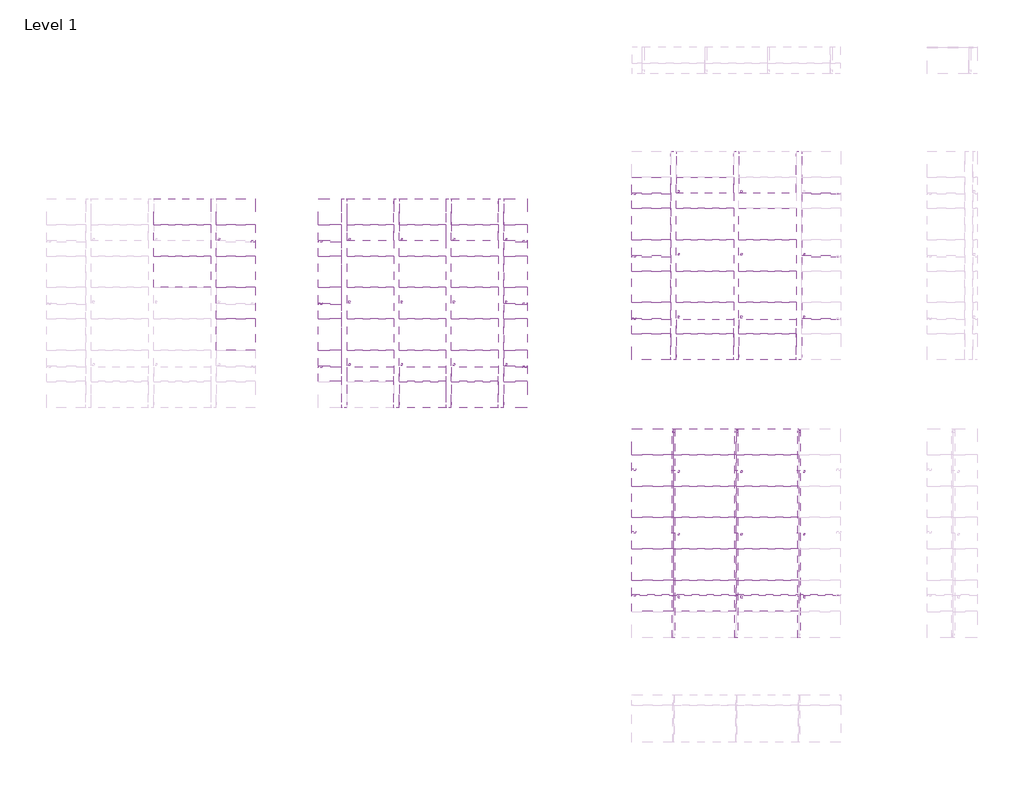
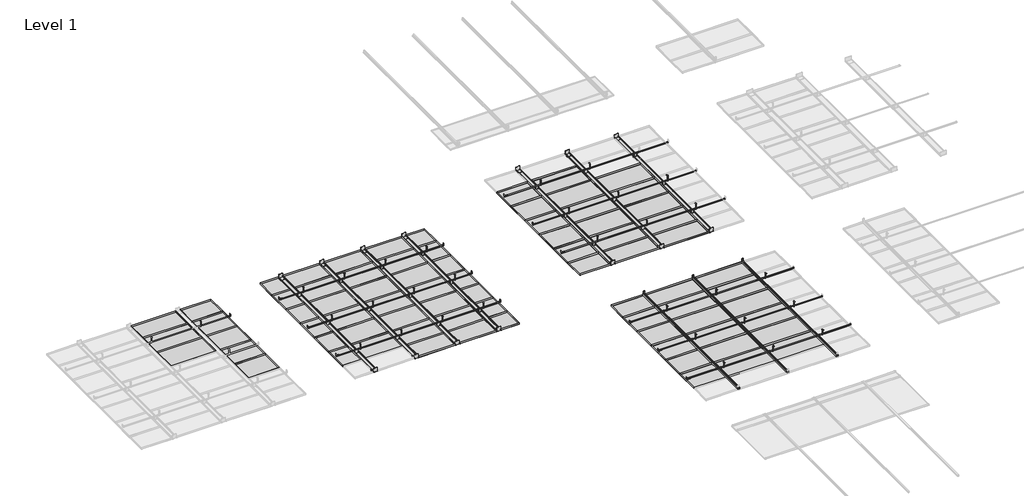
# One storey, part 6 of 32: 137 proxies.
"""IFC4 building model written with IfcOpenShell, lengths in millimetres."""

from ifc_helpers import new_model, si_unit, origin, place, context, project, spatial, transform, mapped, element, save
from components import generic_models_68f9382c, generic_models_d3878264, generic_models_7700acbb, generic_models_8e456d97, generic_models_8e043421, generic_models_0902a4dc, generic_models_473d700c, generic_models_fc0800be, generic_models_c447fded, generic_models_d1081ca2, generic_models_65a62dc2, generic_models_7d67d448, generic_models_b38b7da3, generic_models_b8162554, generic_models_87ce61aa, generic_models_99a2cd64, generic_models_e242ee94, generic_models_6c3d11f3, generic_models_ce491251, generic_models_44111244, generic_models_28f6a95c, generic_models_9e18e937, generic_models_9ccf16c1, generic_models_da7f173b, generic_models_743fb40c

model = new_model("IFC4")

# Units and contexts
model_context = context("Model", 3, world=origin())
ifc_project = project(units=[si_unit("LENGTHUNIT", "METRE", prefix="MILLI")], contexts=[model_context])

# Site, building, storey
site = spatial("IfcSite", under=ifc_project)
building = spatial("IfcBuilding", under=site)
storey = spatial("IfcBuildingStorey", under=building, Name="Level 1", Elevation=0.0)

# Proxies
placement = place(None, origin())
generic_models_shape = generic_models_68f9382c(model_context)
element("IfcBuildingElementProxy", 1, Name="durlum_S5-100_RHOMBOS_panel : durlum_S5-100_RHOMBOS_panel", ObjectType="durlum_S5-100_RHOMBOS_panel : durlum_S5-100_RHOMBOS_panel", at=placement, inside=storey, context=model_context, shape_type="MappedRepresentation", body=[
    mapped(generic_models_shape, transform((-27995.2269838, -1761.3211481, 3800.0), x_axis=(1.0, 0.0, 0.0), y_axis=(0.0, 1.0, 0.0), z_axis=(0.0, 0.0, 1.0))),
])
element("IfcBuildingElementProxy", 2, Name="durlum_S5-100_RHOMBOS_panel : durlum_S5-100_RHOMBOS_panel", ObjectType="durlum_S5-100_RHOMBOS_panel : durlum_S5-100_RHOMBOS_panel", at=placement, inside=storey, context=model_context, shape_type="MappedRepresentation", body=[
    mapped(generic_models_shape, transform((-27995.2269838, -1161.3211481, 3800.0), x_axis=(1.0, 0.0, 0.0), y_axis=(0.0, 1.0, 0.0), z_axis=(0.0, 0.0, 1.0))),
])
generic_models_2_shape = generic_models_d3878264(model_context)
element("IfcBuildingElementProxy", 3, Name="durlum_S5-100_RHOMBOS_panel : durlum_S5-100_RHOMBOS_panel_wall_length_cut", ObjectType="durlum_S5-100_RHOMBOS_panel : durlum_S5-100_RHOMBOS_panel_wall_length_cut", at=placement, inside=storey, context=model_context, shape_type="MappedRepresentation", body=[
    mapped(generic_models_2_shape, transform((-26968.7269838, -2961.3211481, 3800.0), x_axis=(1.0, 0.0, 0.0), y_axis=(0.0, 1.0, 0.0), z_axis=(0.0, 0.0, 1.0))),
])
element("IfcBuildingElementProxy", 4, Name="durlum_S5-100_RHOMBOS_panel : durlum_S5-100_RHOMBOS_panel_wall_length_cut", ObjectType="durlum_S5-100_RHOMBOS_panel : durlum_S5-100_RHOMBOS_panel_wall_length_cut", at=placement, inside=storey, context=model_context, shape_type="MappedRepresentation", body=[
    mapped(generic_models_2_shape, transform((-26968.7269838, -2361.3211481, 3800.0), x_axis=(1.0, 0.0, 0.0), y_axis=(0.0, 1.0, 0.0), z_axis=(0.0, 0.0, 1.0))),
])
element("IfcBuildingElementProxy", 5, Name="durlum_S5-100_RHOMBOS_panel : durlum_S5-100_RHOMBOS_panel_wall_length_cut", ObjectType="durlum_S5-100_RHOMBOS_panel : durlum_S5-100_RHOMBOS_panel_wall_length_cut", at=placement, inside=storey, context=model_context, shape_type="MappedRepresentation", body=[
    mapped(generic_models_2_shape, transform((-26968.7269838, -1761.3211481, 3800.0), x_axis=(1.0, 0.0, 0.0), y_axis=(0.0, 1.0, 0.0), z_axis=(0.0, 0.0, 1.0))),
])
element("IfcBuildingElementProxy", 6, Name="durlum_S5-100_RHOMBOS_panel : durlum_S5-100_RHOMBOS_panel_wall_length_cut", ObjectType="durlum_S5-100_RHOMBOS_panel : durlum_S5-100_RHOMBOS_panel_wall_length_cut", at=placement, inside=storey, context=model_context, shape_type="MappedRepresentation", body=[
    mapped(generic_models_2_shape, transform((-26968.7269838, -1161.3211481, 3800.0), x_axis=(1.0, 0.0, 0.0), y_axis=(0.0, 1.0, 0.0), z_axis=(0.0, 0.0, 1.0))),
])
generic_models_3_shape = generic_models_7700acbb(model_context)
element("IfcBuildingElementProxy", 7, Name="durlum_S5-100_RHOMBOS_panel : durlum_S5-100_RHOMBOS_panel_wall_width_cut", ObjectType="durlum_S5-100_RHOMBOS_panel : durlum_S5-100_RHOMBOS_panel_wall_width_cut", at=placement, inside=storey, context=model_context, shape_type="MappedRepresentation", body=[
    mapped(generic_models_3_shape, transform((-27995.2269838, -611.3211481, 3800.0), x_axis=(1.0, 0.0, 0.0), y_axis=(0.0, 1.0, 0.0), z_axis=(0.0, 0.0, 1.0))),
])
generic_models_4_shape = generic_models_8e456d97(model_context)
element("IfcBuildingElementProxy", 8, Name="durlum_S5-100_RHOMBOS_panel : durlum_S5-100_RHOMBOS_panel_wall_corner", ObjectType="durlum_S5-100_RHOMBOS_panel : durlum_S5-100_RHOMBOS_panel_wall_corner", at=placement, inside=storey, context=model_context, shape_type="MappedRepresentation", body=[
    mapped(generic_models_4_shape, transform((-26968.7269838, -611.3211481, 3800.0), x_axis=(1.0, 0.0, 0.0), y_axis=(0.0, 1.0, 0.0), z_axis=(0.0, 0.0, 1.0))),
])
generic_models_5_shape = generic_models_8e043421(model_context)
element("IfcBuildingElementProxy", 9, Name="durlum_S5-100_panel : durlum_S5-100_panel_wall_length_cut", ObjectType="durlum_S5-100_panel : durlum_S5-100_panel_wall_length_cut", at=placement, inside=storey, context=model_context, shape_type="MappedRepresentation", body=[
    mapped(generic_models_5_shape, transform((-19015.4236977, -2048.2303881, 3800.0), x_axis=(1.0, 0.0, 0.0), y_axis=(0.0, 1.0, 0.0), z_axis=(0.0, 0.0, 1.0))),
])
element("IfcBuildingElementProxy", 10, Name="durlum_S5-100_panel : durlum_S5-100_panel_wall_length_cut", ObjectType="durlum_S5-100_panel : durlum_S5-100_panel_wall_length_cut", at=placement, inside=storey, context=model_context, shape_type="MappedRepresentation", body=[
    mapped(generic_models_5_shape, transform((-19015.4236977, -1448.2303881, 3800.0), x_axis=(1.0, 0.0, 0.0), y_axis=(0.0, 1.0, 0.0), z_axis=(0.0, 0.0, 1.0))),
])
element("IfcBuildingElementProxy", 11, Name="durlum_S5-100_panel : durlum_S5-100_panel_wall_length_cut", ObjectType="durlum_S5-100_panel : durlum_S5-100_panel_wall_length_cut", at=placement, inside=storey, context=model_context, shape_type="MappedRepresentation", body=[
    mapped(generic_models_5_shape, transform((-19015.4236977, -848.2303881, 3800.0), x_axis=(1.0, 0.0, 0.0), y_axis=(0.0, 1.0, 0.0), z_axis=(0.0, 0.0, 1.0))),
])
element("IfcBuildingElementProxy", 12, Name="durlum_S5-100_panel : durlum_S5-100_panel_wall_length_cut", ObjectType="durlum_S5-100_panel : durlum_S5-100_panel_wall_length_cut", at=placement, inside=storey, context=model_context, shape_type="MappedRepresentation", body=[
    mapped(generic_models_5_shape, transform((-19015.4236977, -2648.2303881, 3800.0), x_axis=(1.0, 0.0, 0.0), y_axis=(0.0, 1.0, 0.0), z_axis=(0.0, 0.0, 1.0))),
])
element("IfcBuildingElementProxy", 13, Name="durlum_S5-100_panel : durlum_S5-100_panel_wall_length_cut", ObjectType="durlum_S5-100_panel : durlum_S5-100_panel_wall_length_cut", at=placement, inside=storey, context=model_context, shape_type="MappedRepresentation", body=[
    mapped(generic_models_5_shape, transform((-19015.4236977, -248.2303881, 3800.0), x_axis=(1.0, 0.0, 0.0), y_axis=(0.0, 1.0, 0.0), z_axis=(0.0, 0.0, 1.0))),
])
generic_models_6_shape = generic_models_0902a4dc(model_context)
element("IfcBuildingElementProxy", 14, Name="durlum_S5-100_panel : durlum_S5-100_panel_wall_corner", ObjectType="durlum_S5-100_panel : durlum_S5-100_panel_wall_corner", at=placement, inside=storey, context=model_context, shape_type="MappedRepresentation", body=[
    mapped(generic_models_6_shape, transform((-19015.4236977, -3198.2303881, 3800.0), x_axis=(1.0, 0.0, 0.0), y_axis=(0.0, 1.0, 0.0), z_axis=(0.0, 0.0, 1.0))),
])
generic_models_7_shape = generic_models_473d700c(model_context)
element("IfcBuildingElementProxy", 15, Name="durlum_S5-100_panel : durlum_S5-100_panel", ObjectType="durlum_S5-100_panel : durlum_S5-100_panel", at=placement, inside=storey, context=model_context, shape_type="MappedRepresentation", body=[
    mapped(generic_models_7_shape, transform((-17990.1736977, -1448.2303881, 3800.0), x_axis=(1.0, 0.0, 0.0), y_axis=(0.0, 1.0, 0.0), z_axis=(0.0, 0.0, 1.0))),
])
element("IfcBuildingElementProxy", 16, Name="durlum_S5-100_panel : durlum_S5-100_panel", ObjectType="durlum_S5-100_panel : durlum_S5-100_panel", at=placement, inside=storey, context=model_context, shape_type="MappedRepresentation", body=[
    mapped(generic_models_7_shape, transform((-16790.1736977, -1448.2303881, 3800.0), x_axis=(1.0, 0.0, 0.0), y_axis=(0.0, 1.0, 0.0), z_axis=(0.0, 0.0, 1.0))),
])
element("IfcBuildingElementProxy", 17, Name="durlum_S5-100_panel : durlum_S5-100_panel", ObjectType="durlum_S5-100_panel : durlum_S5-100_panel", at=placement, inside=storey, context=model_context, shape_type="MappedRepresentation", body=[
    mapped(generic_models_7_shape, transform((-17990.1736977, -848.2303881, 3800.0), x_axis=(1.0, 0.0, 0.0), y_axis=(0.0, 1.0, 0.0), z_axis=(0.0, 0.0, 1.0))),
])
element("IfcBuildingElementProxy", 18, Name="durlum_S5-100_panel : durlum_S5-100_panel", ObjectType="durlum_S5-100_panel : durlum_S5-100_panel", at=placement, inside=storey, context=model_context, shape_type="MappedRepresentation", body=[
    mapped(generic_models_7_shape, transform((-16790.1736977, -848.2303881, 3800.0), x_axis=(1.0, 0.0, 0.0), y_axis=(0.0, 1.0, 0.0), z_axis=(0.0, 0.0, 1.0))),
])
element("IfcBuildingElementProxy", 19, Name="durlum_S5-100_panel : durlum_S5-100_panel", ObjectType="durlum_S5-100_panel : durlum_S5-100_panel", at=placement, inside=storey, context=model_context, shape_type="MappedRepresentation", body=[
    mapped(generic_models_7_shape, transform((-17990.1736977, -2648.2303881, 3800.0), x_axis=(1.0, 0.0, 0.0), y_axis=(0.0, 1.0, 0.0), z_axis=(0.0, 0.0, 1.0))),
])
element("IfcBuildingElementProxy", 20, Name="durlum_S5-100_panel : durlum_S5-100_panel", ObjectType="durlum_S5-100_panel : durlum_S5-100_panel", at=placement, inside=storey, context=model_context, shape_type="MappedRepresentation", body=[
    mapped(generic_models_7_shape, transform((-16790.1736977, -2648.2303881, 3800.0), x_axis=(1.0, 0.0, 0.0), y_axis=(0.0, 1.0, 0.0), z_axis=(0.0, 0.0, 1.0))),
])
element("IfcBuildingElementProxy", 21, Name="durlum_S5-100_panel : durlum_S5-100_panel", ObjectType="durlum_S5-100_panel : durlum_S5-100_panel", at=placement, inside=storey, context=model_context, shape_type="MappedRepresentation", body=[
    mapped(generic_models_7_shape, transform((-17990.1736977, -248.2303881, 3800.0), x_axis=(1.0, 0.0, 0.0), y_axis=(0.0, 1.0, 0.0), z_axis=(0.0, 0.0, 1.0))),
])
element("IfcBuildingElementProxy", 22, Name="durlum_S5-100_panel : durlum_S5-100_panel", ObjectType="durlum_S5-100_panel : durlum_S5-100_panel", at=placement, inside=storey, context=model_context, shape_type="MappedRepresentation", body=[
    mapped(generic_models_7_shape, transform((-17990.1736977, -2048.2303881, 3800.0), x_axis=(1.0, 0.0, 0.0), y_axis=(0.0, 1.0, 0.0), z_axis=(0.0, 0.0, 1.0))),
])
element("IfcBuildingElementProxy", 23, Name="durlum_S5-100_panel : durlum_S5-100_panel", ObjectType="durlum_S5-100_panel : durlum_S5-100_panel", at=placement, inside=storey, context=model_context, shape_type="MappedRepresentation", body=[
    mapped(generic_models_7_shape, transform((-16790.1736977, -2048.2303881, 3800.0), x_axis=(1.0, 0.0, 0.0), y_axis=(0.0, 1.0, 0.0), z_axis=(0.0, 0.0, 1.0))),
])
generic_models_8_shape = generic_models_fc0800be(model_context)
element("IfcBuildingElementProxy", 24, Name="durlum_S5-100_panel : durlum_S5-100_panel_wall_width_cut", ObjectType="durlum_S5-100_panel : durlum_S5-100_panel_wall_width_cut", at=placement, inside=storey, context=model_context, shape_type="MappedRepresentation", body=[
    mapped(generic_models_8_shape, transform((-16790.1736977, -3198.2303881, 3800.0), x_axis=(1.0, 0.0, 0.0), y_axis=(0.0, 1.0, 0.0), z_axis=(0.0, 0.0, 1.0))),
])
element("IfcBuildingElementProxy", 25, Name="durlum_S5-100_panel : durlum_S5-100_panel_wall_width_cut", ObjectType="durlum_S5-100_panel : durlum_S5-100_panel_wall_width_cut", at=placement, inside=storey, context=model_context, shape_type="MappedRepresentation", body=[
    mapped(generic_models_8_shape, transform((-17990.1736977, -3198.2303881, 3800.0), x_axis=(1.0, 0.0, 0.0), y_axis=(0.0, 1.0, 0.0), z_axis=(0.0, 0.0, 1.0))),
])
generic_models_9_shape = generic_models_c447fded(model_context)
element("IfcBuildingElementProxy", 26, Name="durlum_S7_panel : durlum_S7_panel", ObjectType="durlum_S7_panel : durlum_S7_panel", at=placement, inside=storey, context=model_context, shape_type="MappedRepresentation", body=[
    mapped(generic_models_9_shape, transform((-16790.1736977, -7364.8137232, 3800.0), x_axis=(1.0, 0.0, 0.0), y_axis=(0.0, 1.0, 0.0), z_axis=(0.0, 0.0, 1.0))),
])
element("IfcBuildingElementProxy", 27, Name="durlum_S7_panel : durlum_S7_panel", ObjectType="durlum_S7_panel : durlum_S7_panel", at=placement, inside=storey, context=model_context, shape_type="MappedRepresentation", body=[
    mapped(generic_models_9_shape, transform((-17990.1736977, -6764.8137232, 3800.0), x_axis=(1.0, 0.0, 0.0), y_axis=(0.0, 1.0, 0.0), z_axis=(0.0, 0.0, 1.0))),
])
element("IfcBuildingElementProxy", 28, Name="durlum_S7_panel : durlum_S7_panel", ObjectType="durlum_S7_panel : durlum_S7_panel", at=placement, inside=storey, context=model_context, shape_type="MappedRepresentation", body=[
    mapped(generic_models_9_shape, transform((-16790.1736977, -6764.8137232, 3800.0), x_axis=(1.0, 0.0, 0.0), y_axis=(0.0, 1.0, 0.0), z_axis=(0.0, 0.0, 1.0))),
])
element("IfcBuildingElementProxy", 29, Name="durlum_S7_panel : durlum_S7_panel", ObjectType="durlum_S7_panel : durlum_S7_panel", at=placement, inside=storey, context=model_context, shape_type="MappedRepresentation", body=[
    mapped(generic_models_9_shape, transform((-17990.1736977, -6164.8137232, 3800.0), x_axis=(1.0, 0.0, 0.0), y_axis=(0.0, 1.0, 0.0), z_axis=(0.0, 0.0, 1.0))),
])
element("IfcBuildingElementProxy", 30, Name="durlum_S7_panel : durlum_S7_panel", ObjectType="durlum_S7_panel : durlum_S7_panel", at=placement, inside=storey, context=model_context, shape_type="MappedRepresentation", body=[
    mapped(generic_models_9_shape, transform((-16790.1736977, -6164.8137232, 3800.0), x_axis=(1.0, 0.0, 0.0), y_axis=(0.0, 1.0, 0.0), z_axis=(0.0, 0.0, 1.0))),
])
element("IfcBuildingElementProxy", 31, Name="durlum_S7_panel : durlum_S7_panel", ObjectType="durlum_S7_panel : durlum_S7_panel", at=placement, inside=storey, context=model_context, shape_type="MappedRepresentation", body=[
    mapped(generic_models_9_shape, transform((-17990.1736977, -7964.8137232, 3800.0), x_axis=(1.0, 0.0, 0.0), y_axis=(0.0, 1.0, 0.0), z_axis=(0.0, 0.0, 1.0))),
])
element("IfcBuildingElementProxy", 32, Name="durlum_S7_panel : durlum_S7_panel", ObjectType="durlum_S7_panel : durlum_S7_panel", at=placement, inside=storey, context=model_context, shape_type="MappedRepresentation", body=[
    mapped(generic_models_9_shape, transform((-16790.1736977, -7964.8137232, 3800.0), x_axis=(1.0, 0.0, 0.0), y_axis=(0.0, 1.0, 0.0), z_axis=(0.0, 0.0, 1.0))),
])
element("IfcBuildingElementProxy", 33, Name="durlum_S7_panel : durlum_S7_panel", ObjectType="durlum_S7_panel : durlum_S7_panel", at=placement, inside=storey, context=model_context, shape_type="MappedRepresentation", body=[
    mapped(generic_models_9_shape, transform((-17990.1736977, -5564.8137232, 3800.0), x_axis=(1.0, 0.0, 0.0), y_axis=(0.0, 1.0, 0.0), z_axis=(0.0, 0.0, 1.0))),
])
element("IfcBuildingElementProxy", 34, Name="durlum_S7_panel : durlum_S7_panel", ObjectType="durlum_S7_panel : durlum_S7_panel", at=placement, inside=storey, context=model_context, shape_type="MappedRepresentation", body=[
    mapped(generic_models_9_shape, transform((-16790.1736977, -5564.8137232, 3800.0), x_axis=(1.0, 0.0, 0.0), y_axis=(0.0, 1.0, 0.0), z_axis=(0.0, 0.0, 1.0))),
])
element("IfcBuildingElementProxy", 35, Name="durlum_S7_panel : durlum_S7_panel", ObjectType="durlum_S7_panel : durlum_S7_panel", at=placement, inside=storey, context=model_context, shape_type="MappedRepresentation", body=[
    mapped(generic_models_9_shape, transform((-17990.1736977, -7364.8137232, 3800.0), x_axis=(1.0, 0.0, 0.0), y_axis=(0.0, 1.0, 0.0), z_axis=(0.0, 0.0, 1.0))),
])
generic_models_10_shape = generic_models_d1081ca2(model_context)
element("IfcBuildingElementProxy", 36, Name="durlum_S7_panel : durlum_S7_panel_wall_width_cut", ObjectType="durlum_S7_panel : durlum_S7_panel_wall_width_cut", at=placement, inside=storey, context=model_context, shape_type="MappedRepresentation", body=[
    mapped(generic_models_10_shape, transform((-16790.1736977, -5014.8137232, 3800.0), x_axis=(1.0, 0.0, 0.0), y_axis=(0.0, 1.0, 0.0), z_axis=(0.0, 0.0, 1.0))),
])
element("IfcBuildingElementProxy", 37, Name="durlum_S7_panel : durlum_S7_panel_wall_width_cut", ObjectType="durlum_S7_panel : durlum_S7_panel_wall_width_cut", at=placement, inside=storey, context=model_context, shape_type="MappedRepresentation", body=[
    mapped(generic_models_10_shape, transform((-17990.1736977, -5014.8137232, 3800.0), x_axis=(1.0, 0.0, 0.0), y_axis=(0.0, 1.0, 0.0), z_axis=(0.0, 0.0, 1.0))),
])
generic_models_11_shape = generic_models_65a62dc2(model_context)
element("IfcBuildingElementProxy", 38, Name="durlum_S7_panel : durlum_S7_panel_wall_length_cut", ObjectType="durlum_S7_panel : durlum_S7_panel_wall_length_cut", at=placement, inside=storey, context=model_context, shape_type="MappedRepresentation", body=[
    mapped(generic_models_11_shape, transform((-18990.1736977, -7364.8137232, 3800.0), x_axis=(1.0, 0.0, 0.0), y_axis=(0.0, 1.0, 0.0), z_axis=(0.0, 0.0, 1.0))),
])
element("IfcBuildingElementProxy", 39, Name="durlum_S7_panel : durlum_S7_panel_wall_length_cut", ObjectType="durlum_S7_panel : durlum_S7_panel_wall_length_cut", at=placement, inside=storey, context=model_context, shape_type="MappedRepresentation", body=[
    mapped(generic_models_11_shape, transform((-18990.1736977, -6764.8137232, 3800.0), x_axis=(1.0, 0.0, 0.0), y_axis=(0.0, 1.0, 0.0), z_axis=(0.0, 0.0, 1.0))),
])
element("IfcBuildingElementProxy", 40, Name="durlum_S7_panel : durlum_S7_panel_wall_length_cut", ObjectType="durlum_S7_panel : durlum_S7_panel_wall_length_cut", at=placement, inside=storey, context=model_context, shape_type="MappedRepresentation", body=[
    mapped(generic_models_11_shape, transform((-18990.1736977, -6164.8137232, 3800.0), x_axis=(1.0, 0.0, 0.0), y_axis=(0.0, 1.0, 0.0), z_axis=(0.0, 0.0, 1.0))),
])
element("IfcBuildingElementProxy", 41, Name="durlum_S7_panel : durlum_S7_panel_wall_length_cut", ObjectType="durlum_S7_panel : durlum_S7_panel_wall_length_cut", at=placement, inside=storey, context=model_context, shape_type="MappedRepresentation", body=[
    mapped(generic_models_11_shape, transform((-18990.1736977, -7964.8137232, 3800.0), x_axis=(1.0, 0.0, 0.0), y_axis=(0.0, 1.0, 0.0), z_axis=(0.0, 0.0, 1.0))),
])
element("IfcBuildingElementProxy", 42, Name="durlum_S7_panel : durlum_S7_panel_wall_length_cut", ObjectType="durlum_S7_panel : durlum_S7_panel_wall_length_cut", at=placement, inside=storey, context=model_context, shape_type="MappedRepresentation", body=[
    mapped(generic_models_11_shape, transform((-18990.1736977, -5564.8137232, 3800.0), x_axis=(1.0, 0.0, 0.0), y_axis=(0.0, 1.0, 0.0), z_axis=(0.0, 0.0, 1.0))),
])
generic_models_12_shape = generic_models_7d67d448(model_context)
element("IfcBuildingElementProxy", 43, Name="durlum_S7_panel : durlum_S7_panel_wall_corner", ObjectType="durlum_S7_panel : durlum_S7_panel_wall_corner", at=placement, inside=storey, context=model_context, shape_type="MappedRepresentation", body=[
    mapped(generic_models_12_shape, transform((-18990.1736977, -5014.8137232, 3800.0), x_axis=(1.0, 0.0, 0.0), y_axis=(0.0, 1.0, 0.0), z_axis=(0.0, 0.0, 1.0))),
])
generic_models_13_shape = generic_models_b38b7da3(model_context)
element("IfcBuildingElementProxy", 44, Name="durlum_S5.7KS-BR_panel : durlum_S5.7KS-BR_panel", ObjectType="durlum_S5.7KS-BR_panel : durlum_S5.7KS-BR_panel", at=placement, inside=storey, context=model_context, shape_type="MappedRepresentation", body=[
    mapped(generic_models_13_shape, transform((-24395.2269838, -2961.3211481, 3800.0), x_axis=(1.0, 0.0, 0.0), y_axis=(0.0, 1.0, 0.0), z_axis=(0.0, 0.0, 1.0))),
])
element("IfcBuildingElementProxy", 45, Name="durlum_S5.7KS-BR_panel : durlum_S5.7KS-BR_panel", ObjectType="durlum_S5.7KS-BR_panel : durlum_S5.7KS-BR_panel", at=placement, inside=storey, context=model_context, shape_type="MappedRepresentation", body=[
    mapped(generic_models_13_shape, transform((-22395.2269838, -2961.3211481, 3800.0), x_axis=(1.0, 0.0, 0.0), y_axis=(0.0, 1.0, 0.0), z_axis=(0.0, 0.0, 1.0))),
])
element("IfcBuildingElementProxy", 46, Name="durlum_S5.7KS-BR_panel : durlum_S5.7KS-BR_panel", ObjectType="durlum_S5.7KS-BR_panel : durlum_S5.7KS-BR_panel", at=placement, inside=storey, context=model_context, shape_type="MappedRepresentation", body=[
    mapped(generic_models_13_shape, transform((-24395.2269838, -2361.3211481, 3800.0), x_axis=(1.0, 0.0, 0.0), y_axis=(0.0, 1.0, 0.0), z_axis=(0.0, 0.0, 1.0))),
])
element("IfcBuildingElementProxy", 47, Name="durlum_S5.7KS-BR_panel : durlum_S5.7KS-BR_panel", ObjectType="durlum_S5.7KS-BR_panel : durlum_S5.7KS-BR_panel", at=placement, inside=storey, context=model_context, shape_type="MappedRepresentation", body=[
    mapped(generic_models_13_shape, transform((-22395.2269838, -2361.3211481, 3800.0), x_axis=(1.0, 0.0, 0.0), y_axis=(0.0, 1.0, 0.0), z_axis=(0.0, 0.0, 1.0))),
])
element("IfcBuildingElementProxy", 48, Name="durlum_S5.7KS-BR_panel : durlum_S5.7KS-BR_panel", ObjectType="durlum_S5.7KS-BR_panel : durlum_S5.7KS-BR_panel", at=placement, inside=storey, context=model_context, shape_type="MappedRepresentation", body=[
    mapped(generic_models_13_shape, transform((-24395.2269838, -1761.3211481, 3800.0), x_axis=(1.0, 0.0, 0.0), y_axis=(0.0, 1.0, 0.0), z_axis=(0.0, 0.0, 1.0))),
])
element("IfcBuildingElementProxy", 49, Name="durlum_S5.7KS-BR_panel : durlum_S5.7KS-BR_panel", ObjectType="durlum_S5.7KS-BR_panel : durlum_S5.7KS-BR_panel", at=placement, inside=storey, context=model_context, shape_type="MappedRepresentation", body=[
    mapped(generic_models_13_shape, transform((-22395.2269838, -1761.3211481, 3800.0), x_axis=(1.0, 0.0, 0.0), y_axis=(0.0, 1.0, 0.0), z_axis=(0.0, 0.0, 1.0))),
])
element("IfcBuildingElementProxy", 50, Name="durlum_S5.7KS-BR_panel : durlum_S5.7KS-BR_panel", ObjectType="durlum_S5.7KS-BR_panel : durlum_S5.7KS-BR_panel", at=placement, inside=storey, context=model_context, shape_type="MappedRepresentation", body=[
    mapped(generic_models_13_shape, transform((-24395.2269838, -3561.3211481, 3800.0), x_axis=(1.0, 0.0, 0.0), y_axis=(0.0, 1.0, 0.0), z_axis=(0.0, 0.0, 1.0))),
])
element("IfcBuildingElementProxy", 51, Name="durlum_S5.7KS-BR_panel : durlum_S5.7KS-BR_panel", ObjectType="durlum_S5.7KS-BR_panel : durlum_S5.7KS-BR_panel", at=placement, inside=storey, context=model_context, shape_type="MappedRepresentation", body=[
    mapped(generic_models_13_shape, transform((-22395.2269838, -3561.3211481, 3800.0), x_axis=(1.0, 0.0, 0.0), y_axis=(0.0, 1.0, 0.0), z_axis=(0.0, 0.0, 1.0))),
])
element("IfcBuildingElementProxy", 52, Name="durlum_S5.7KS-BR_panel : durlum_S5.7KS-BR_panel", ObjectType="durlum_S5.7KS-BR_panel : durlum_S5.7KS-BR_panel", at=placement, inside=storey, context=model_context, shape_type="MappedRepresentation", body=[
    mapped(generic_models_13_shape, transform((-24395.2269838, -1161.3211481, 3800.0), x_axis=(1.0, 0.0, 0.0), y_axis=(0.0, 1.0, 0.0), z_axis=(0.0, 0.0, 1.0))),
])
element("IfcBuildingElementProxy", 53, Name="durlum_S5.7KS-BR_panel : durlum_S5.7KS-BR_panel", ObjectType="durlum_S5.7KS-BR_panel : durlum_S5.7KS-BR_panel", at=placement, inside=storey, context=model_context, shape_type="MappedRepresentation", body=[
    mapped(generic_models_13_shape, transform((-22395.2269838, -1161.3211481, 3800.0), x_axis=(1.0, 0.0, 0.0), y_axis=(0.0, 1.0, 0.0), z_axis=(0.0, 0.0, 1.0))),
])
element("IfcBuildingElementProxy", 54, Name="durlum_S5.7KS-BR_panel : durlum_S5.7KS-BR_panel", ObjectType="durlum_S5.7KS-BR_panel : durlum_S5.7KS-BR_panel", at=placement, inside=storey, context=model_context, shape_type="MappedRepresentation", body=[
    mapped(generic_models_13_shape, transform((-23395.2269838, -2961.3211481, 3800.0), x_axis=(1.0, 0.0, 0.0), y_axis=(0.0, 1.0, 0.0), z_axis=(0.0, 0.0, 1.0))),
])
element("IfcBuildingElementProxy", 55, Name="durlum_S5.7KS-BR_panel : durlum_S5.7KS-BR_panel", ObjectType="durlum_S5.7KS-BR_panel : durlum_S5.7KS-BR_panel", at=placement, inside=storey, context=model_context, shape_type="MappedRepresentation", body=[
    mapped(generic_models_13_shape, transform((-23395.2269838, -2361.3211481, 3800.0), x_axis=(1.0, 0.0, 0.0), y_axis=(0.0, 1.0, 0.0), z_axis=(0.0, 0.0, 1.0))),
])
element("IfcBuildingElementProxy", 56, Name="durlum_S5.7KS-BR_panel : durlum_S5.7KS-BR_panel", ObjectType="durlum_S5.7KS-BR_panel : durlum_S5.7KS-BR_panel", at=placement, inside=storey, context=model_context, shape_type="MappedRepresentation", body=[
    mapped(generic_models_13_shape, transform((-23395.2269838, -1761.3211481, 3800.0), x_axis=(1.0, 0.0, 0.0), y_axis=(0.0, 1.0, 0.0), z_axis=(0.0, 0.0, 1.0))),
])
element("IfcBuildingElementProxy", 57, Name="durlum_S5.7KS-BR_panel : durlum_S5.7KS-BR_panel", ObjectType="durlum_S5.7KS-BR_panel : durlum_S5.7KS-BR_panel", at=placement, inside=storey, context=model_context, shape_type="MappedRepresentation", body=[
    mapped(generic_models_13_shape, transform((-23395.2269838, -3561.3211481, 3800.0), x_axis=(1.0, 0.0, 0.0), y_axis=(0.0, 1.0, 0.0), z_axis=(0.0, 0.0, 1.0))),
])
element("IfcBuildingElementProxy", 58, Name="durlum_S5.7KS-BR_panel : durlum_S5.7KS-BR_panel", ObjectType="durlum_S5.7KS-BR_panel : durlum_S5.7KS-BR_panel", at=placement, inside=storey, context=model_context, shape_type="MappedRepresentation", body=[
    mapped(generic_models_13_shape, transform((-23395.2269838, -1161.3211481, 3800.0), x_axis=(1.0, 0.0, 0.0), y_axis=(0.0, 1.0, 0.0), z_axis=(0.0, 0.0, 1.0))),
])
generic_models_14_shape = generic_models_b8162554(model_context)
element("IfcBuildingElementProxy", 59, Name="durlum_S5.7KS-BR_panel : durlum_S5.7KS-BR_panel_wall_width_cut", ObjectType="durlum_S5.7KS-BR_panel : durlum_S5.7KS-BR_panel_wall_width_cut", at=placement, inside=storey, context=model_context, shape_type="MappedRepresentation", body=[
    mapped(generic_models_14_shape, transform((-22395.2269838, -4111.3211481, 3800.0), x_axis=(1.0, 0.0, 0.0), y_axis=(0.0, 1.0, 0.0), z_axis=(0.0, 0.0, 1.0))),
])
element("IfcBuildingElementProxy", 60, Name="durlum_S5.7KS-BR_panel : durlum_S5.7KS-BR_panel_wall_width_cut", ObjectType="durlum_S5.7KS-BR_panel : durlum_S5.7KS-BR_panel_wall_width_cut", at=placement, inside=storey, context=model_context, shape_type="MappedRepresentation", body=[
    mapped(generic_models_14_shape, transform((-22395.2269838, -611.3211481, 3800.0), x_axis=(1.0, 0.0, 0.0), y_axis=(0.0, 1.0, 0.0), z_axis=(0.0, 0.0, 1.0))),
])
element("IfcBuildingElementProxy", 61, Name="durlum_S5.7KS-BR_panel : durlum_S5.7KS-BR_panel_wall_width_cut", ObjectType="durlum_S5.7KS-BR_panel : durlum_S5.7KS-BR_panel_wall_width_cut", at=placement, inside=storey, context=model_context, shape_type="MappedRepresentation", body=[
    mapped(generic_models_14_shape, transform((-24395.2269838, -611.3211481, 3800.0), x_axis=(1.0, 0.0, 0.0), y_axis=(0.0, 1.0, 0.0), z_axis=(0.0, 0.0, 1.0))),
])
element("IfcBuildingElementProxy", 62, Name="durlum_S5.7KS-BR_panel : durlum_S5.7KS-BR_panel_wall_width_cut", ObjectType="durlum_S5.7KS-BR_panel : durlum_S5.7KS-BR_panel_wall_width_cut", at=placement, inside=storey, context=model_context, shape_type="MappedRepresentation", body=[
    mapped(generic_models_14_shape, transform((-23395.2269838, -4111.3211481, 3800.0), x_axis=(1.0, 0.0, 0.0), y_axis=(0.0, 1.0, 0.0), z_axis=(0.0, 0.0, 1.0))),
])
element("IfcBuildingElementProxy", 63, Name="durlum_S5.7KS-BR_panel : durlum_S5.7KS-BR_panel_wall_width_cut", ObjectType="durlum_S5.7KS-BR_panel : durlum_S5.7KS-BR_panel_wall_width_cut", at=placement, inside=storey, context=model_context, shape_type="MappedRepresentation", body=[
    mapped(generic_models_14_shape, transform((-23395.2269838, -611.3211481, 3800.0), x_axis=(1.0, 0.0, 0.0), y_axis=(0.0, 1.0, 0.0), z_axis=(0.0, 0.0, 1.0))),
])
generic_models_15_shape = generic_models_87ce61aa(model_context)
element("IfcBuildingElementProxy", 64, Name="durlum_S5.7KS-BR_panel : durlum_S5.7KS-BR_panel_wall_length_cut", ObjectType="durlum_S5.7KS-BR_panel : durlum_S5.7KS-BR_panel_wall_length_cut", at=placement, inside=storey, context=model_context, shape_type="MappedRepresentation", body=[
    mapped(generic_models_15_shape, transform((-25171.7269838, -2961.3211481, 3800.0), x_axis=(1.0, 0.0, 0.0), y_axis=(0.0, 1.0, 0.0), z_axis=(0.0, 0.0, 1.0))),
])
element("IfcBuildingElementProxy", 65, Name="durlum_S5.7KS-BR_panel : durlum_S5.7KS-BR_panel_wall_length_cut", ObjectType="durlum_S5.7KS-BR_panel : durlum_S5.7KS-BR_panel_wall_length_cut", at=placement, inside=storey, context=model_context, shape_type="MappedRepresentation", body=[
    mapped(generic_models_15_shape, transform((-21618.7269838, -2961.3211481, 3800.0), x_axis=(1.0, 0.0, 0.0), y_axis=(0.0, 1.0, 0.0), z_axis=(0.0, 0.0, 1.0))),
])
element("IfcBuildingElementProxy", 66, Name="durlum_S5.7KS-BR_panel : durlum_S5.7KS-BR_panel_wall_length_cut", ObjectType="durlum_S5.7KS-BR_panel : durlum_S5.7KS-BR_panel_wall_length_cut", at=placement, inside=storey, context=model_context, shape_type="MappedRepresentation", body=[
    mapped(generic_models_15_shape, transform((-25171.7269838, -2361.3211481, 3800.0), x_axis=(1.0, 0.0, 0.0), y_axis=(0.0, 1.0, 0.0), z_axis=(0.0, 0.0, 1.0))),
])
element("IfcBuildingElementProxy", 67, Name="durlum_S5.7KS-BR_panel : durlum_S5.7KS-BR_panel_wall_length_cut", ObjectType="durlum_S5.7KS-BR_panel : durlum_S5.7KS-BR_panel_wall_length_cut", at=placement, inside=storey, context=model_context, shape_type="MappedRepresentation", body=[
    mapped(generic_models_15_shape, transform((-21618.7269838, -2361.3211481, 3800.0), x_axis=(1.0, 0.0, 0.0), y_axis=(0.0, 1.0, 0.0), z_axis=(0.0, 0.0, 1.0))),
])
element("IfcBuildingElementProxy", 68, Name="durlum_S5.7KS-BR_panel : durlum_S5.7KS-BR_panel_wall_length_cut", ObjectType="durlum_S5.7KS-BR_panel : durlum_S5.7KS-BR_panel_wall_length_cut", at=placement, inside=storey, context=model_context, shape_type="MappedRepresentation", body=[
    mapped(generic_models_15_shape, transform((-25171.7269838, -1761.3211481, 3800.0), x_axis=(1.0, 0.0, 0.0), y_axis=(0.0, 1.0, 0.0), z_axis=(0.0, 0.0, 1.0))),
])
element("IfcBuildingElementProxy", 69, Name="durlum_S5.7KS-BR_panel : durlum_S5.7KS-BR_panel_wall_length_cut", ObjectType="durlum_S5.7KS-BR_panel : durlum_S5.7KS-BR_panel_wall_length_cut", at=placement, inside=storey, context=model_context, shape_type="MappedRepresentation", body=[
    mapped(generic_models_15_shape, transform((-21618.7269838, -1761.3211481, 3800.0), x_axis=(1.0, 0.0, 0.0), y_axis=(0.0, 1.0, 0.0), z_axis=(0.0, 0.0, 1.0))),
])
element("IfcBuildingElementProxy", 70, Name="durlum_S5.7KS-BR_panel : durlum_S5.7KS-BR_panel_wall_length_cut", ObjectType="durlum_S5.7KS-BR_panel : durlum_S5.7KS-BR_panel_wall_length_cut", at=placement, inside=storey, context=model_context, shape_type="MappedRepresentation", body=[
    mapped(generic_models_15_shape, transform((-25171.7269838, -3561.3211481, 3800.0), x_axis=(1.0, 0.0, 0.0), y_axis=(0.0, 1.0, 0.0), z_axis=(0.0, 0.0, 1.0))),
])
element("IfcBuildingElementProxy", 71, Name="durlum_S5.7KS-BR_panel : durlum_S5.7KS-BR_panel_wall_length_cut", ObjectType="durlum_S5.7KS-BR_panel : durlum_S5.7KS-BR_panel_wall_length_cut", at=placement, inside=storey, context=model_context, shape_type="MappedRepresentation", body=[
    mapped(generic_models_15_shape, transform((-21618.7269838, -3561.3211481, 3800.0), x_axis=(1.0, 0.0, 0.0), y_axis=(0.0, 1.0, 0.0), z_axis=(0.0, 0.0, 1.0))),
])
element("IfcBuildingElementProxy", 72, Name="durlum_S5.7KS-BR_panel : durlum_S5.7KS-BR_panel_wall_length_cut", ObjectType="durlum_S5.7KS-BR_panel : durlum_S5.7KS-BR_panel_wall_length_cut", at=placement, inside=storey, context=model_context, shape_type="MappedRepresentation", body=[
    mapped(generic_models_15_shape, transform((-21618.7269838, -1161.3211481, 3800.0), x_axis=(1.0, 0.0, 0.0), y_axis=(0.0, 1.0, 0.0), z_axis=(0.0, 0.0, 1.0))),
])
element("IfcBuildingElementProxy", 73, Name="durlum_S5.7KS-BR_panel : durlum_S5.7KS-BR_panel_wall_length_cut", ObjectType="durlum_S5.7KS-BR_panel : durlum_S5.7KS-BR_panel_wall_length_cut", at=placement, inside=storey, context=model_context, shape_type="MappedRepresentation", body=[
    mapped(generic_models_15_shape, transform((-25171.7269838, -1161.3211481, 3800.0), x_axis=(1.0, 0.0, 0.0), y_axis=(0.0, 1.0, 0.0), z_axis=(0.0, 0.0, 1.0))),
])
generic_models_16_shape = generic_models_99a2cd64(model_context)
element("IfcBuildingElementProxy", 74, Name="durlum_S5.7KS-BR_panel : durlum_S5.7KS-BR_panel_wall_corner", ObjectType="durlum_S5.7KS-BR_panel : durlum_S5.7KS-BR_panel_wall_corner", at=placement, inside=storey, context=model_context, shape_type="MappedRepresentation", body=[
    mapped(generic_models_16_shape, transform((-21618.7269838, -4111.3211481, 3800.0), x_axis=(1.0, 0.0, 0.0), y_axis=(0.0, 1.0, 0.0), z_axis=(0.0, 0.0, 1.0))),
])
element("IfcBuildingElementProxy", 75, Name="durlum_S5.7KS-BR_panel : durlum_S5.7KS-BR_panel_wall_corner", ObjectType="durlum_S5.7KS-BR_panel : durlum_S5.7KS-BR_panel_wall_corner", at=placement, inside=storey, context=model_context, shape_type="MappedRepresentation", body=[
    mapped(generic_models_16_shape, transform((-21618.7269838, -611.3211481, 3800.0), x_axis=(1.0, 0.0, 0.0), y_axis=(0.0, 1.0, 0.0), z_axis=(0.0, 0.0, 1.0))),
])
element("IfcBuildingElementProxy", 76, Name="durlum_S5.7KS-BR_panel : durlum_S5.7KS-BR_panel_wall_corner", ObjectType="durlum_S5.7KS-BR_panel : durlum_S5.7KS-BR_panel_wall_corner", at=placement, inside=storey, context=model_context, shape_type="MappedRepresentation", body=[
    mapped(generic_models_16_shape, transform((-25171.7269838, -611.3211481, 3800.0), x_axis=(1.0, 0.0, 0.0), y_axis=(0.0, 1.0, 0.0), z_axis=(0.0, 0.0, 1.0))),
])
generic_models_17_shape = generic_models_e242ee94(model_context)
element("IfcBuildingElementProxy", 77, Name="durlum_S5-100 : durlum_S5-100", ObjectType="durlum_S5-100 : durlum_S5-100", at=placement, inside=storey, context=model_context, shape_type="MappedRepresentation", body=[
    mapped(generic_models_17_shape, transform((-17390.1736977, -1448.2303881, -1605.1851536), x_axis=(1.0, 0.0, 0.0), y_axis=(0.0, 1.0, 0.0), z_axis=(0.0, 0.0, 1.0))),
])
generic_models_18_shape = generic_models_6c3d11f3(model_context)
element("IfcBuildingElementProxy", 78, Name="durlum_S5.7KS-BR_RHOMBOS : durlum_S5.7KS-BR_RHOMBOS", ObjectType="durlum_S5.7KS-BR_RHOMBOS : durlum_S5.7KS-BR_RHOMBOS", at=placement, inside=storey, context=model_context, shape_type="MappedRepresentation", body=[
    mapped(generic_models_18_shape, transform((-23395.2269838, -2361.3211481, 0.0), x_axis=(1.0, 0.0, 0.0), y_axis=(0.0, 1.0, 0.0), z_axis=(0.0, 0.0, 1.0))),
])
generic_models_19_shape = generic_models_ce491251(model_context)
element("IfcBuildingElementProxy", 79, Name="durlum_U1300 : durlum_U1300", ObjectType="durlum_U1300 : durlum_U1300", at=placement, inside=storey, context=model_context, shape_type="MappedRepresentation", body=[
    mapped(generic_models_19_shape, transform((-16090.1736977, -1448.2303881, 3149.4124682), x_axis=(-1.0, 0.0, 0.0), y_axis=(0.0, -1.0, 0.0), z_axis=(0.0, 0.0, 1.0))),
])
element("IfcBuildingElementProxy", 80, Name="durlum_U1300 : durlum_U1300", ObjectType="durlum_U1300 : durlum_U1300", at=placement, inside=storey, context=model_context, shape_type="MappedRepresentation", body=[
    mapped(generic_models_19_shape, transform((-18490.1736977, -2648.2303881, 3149.4124682), x_axis=(-1.0, 0.0, 0.0), y_axis=(0.0, -1.0, 0.0), z_axis=(0.0, 0.0, 1.0))),
])
element("IfcBuildingElementProxy", 81, Name="durlum_U1300 : durlum_U1300", ObjectType="durlum_U1300 : durlum_U1300", at=placement, inside=storey, context=model_context, shape_type="MappedRepresentation", body=[
    mapped(generic_models_19_shape, transform((-16090.1736977, -2648.2303881, 3149.4124682), x_axis=(-1.0, 0.0, 0.0), y_axis=(0.0, -1.0, 0.0), z_axis=(0.0, 0.0, 1.0))),
])
element("IfcBuildingElementProxy", 82, Name="durlum_U1300 : durlum_U1300", ObjectType="durlum_U1300 : durlum_U1300", at=placement, inside=storey, context=model_context, shape_type="MappedRepresentation", body=[
    mapped(generic_models_19_shape, transform((-18490.1736977, -248.2303881, 3149.4124682), x_axis=(-1.0, 0.0, 0.0), y_axis=(0.0, -1.0, 0.0), z_axis=(0.0, 0.0, 1.0))),
])
element("IfcBuildingElementProxy", 83, Name="durlum_U1300 : durlum_U1300", ObjectType="durlum_U1300 : durlum_U1300", at=placement, inside=storey, context=model_context, shape_type="MappedRepresentation", body=[
    mapped(generic_models_19_shape, transform((-18490.1736977, -1448.2303881, 3149.4124682), x_axis=(-1.0, 0.0, 0.0), y_axis=(0.0, -1.0, 0.0), z_axis=(0.0, 0.0, 1.0))),
])
element("IfcBuildingElementProxy", 84, Name="durlum_U1300 : durlum_U1300", ObjectType="durlum_U1300 : durlum_U1300", at=placement, inside=storey, context=model_context, shape_type="MappedRepresentation", body=[
    mapped(generic_models_19_shape, transform((-27295.2269838, -1161.3211481, 3149.4124682), x_axis=(-1.0, 0.0, 0.0), y_axis=(0.0, -1.0, 0.0), z_axis=(0.0, 0.0, 1.0))),
])
element("IfcBuildingElementProxy", 85, Name="durlum_U1300 : durlum_U1300", ObjectType="durlum_U1300 : durlum_U1300", at=placement, inside=storey, context=model_context, shape_type="MappedRepresentation", body=[
    mapped(generic_models_19_shape, transform((-24795.2269838, -3561.3211481, 3149.4124682), x_axis=(-1.0, 0.0, 0.0), y_axis=(0.0, -1.0, 0.0), z_axis=(0.0, 0.0, 1.0))),
])
element("IfcBuildingElementProxy", 86, Name="durlum_U1300 : durlum_U1300", ObjectType="durlum_U1300 : durlum_U1300", at=placement, inside=storey, context=model_context, shape_type="MappedRepresentation", body=[
    mapped(generic_models_19_shape, transform((-21795.2269838, -3561.3211481, 3149.4124682), x_axis=(-1.0, 0.0, 0.0), y_axis=(0.0, -1.0, 0.0), z_axis=(0.0, 0.0, 1.0))),
])
element("IfcBuildingElementProxy", 87, Name="durlum_U1300 : durlum_U1300", ObjectType="durlum_U1300 : durlum_U1300", at=placement, inside=storey, context=model_context, shape_type="MappedRepresentation", body=[
    mapped(generic_models_19_shape, transform((-23795.2269838, -3561.3211481, 3149.4124682), x_axis=(-1.0, 0.0, 0.0), y_axis=(0.0, -1.0, 0.0), z_axis=(0.0, 0.0, 1.0))),
])
element("IfcBuildingElementProxy", 88, Name="durlum_U1300 : durlum_U1300", ObjectType="durlum_U1300 : durlum_U1300", at=placement, inside=storey, context=model_context, shape_type="MappedRepresentation", body=[
    mapped(generic_models_19_shape, transform((-24795.2269838, -1161.3211481, 3149.4124682), x_axis=(-1.0, 0.0, 0.0), y_axis=(0.0, -1.0, 0.0), z_axis=(0.0, 0.0, 1.0))),
])
element("IfcBuildingElementProxy", 89, Name="durlum_U1300 : durlum_U1300", ObjectType="durlum_U1300 : durlum_U1300", at=placement, inside=storey, context=model_context, shape_type="MappedRepresentation", body=[
    mapped(generic_models_19_shape, transform((-21795.2269838, -1161.3211481, 3149.4124682), x_axis=(-1.0, 0.0, 0.0), y_axis=(0.0, -1.0, 0.0), z_axis=(0.0, 0.0, 1.0))),
])
element("IfcBuildingElementProxy", 90, Name="durlum_U1300 : durlum_U1300", ObjectType="durlum_U1300 : durlum_U1300", at=placement, inside=storey, context=model_context, shape_type="MappedRepresentation", body=[
    mapped(generic_models_19_shape, transform((-23795.2269838, -1161.3211481, 3149.4124682), x_axis=(-1.0, 0.0, 0.0), y_axis=(0.0, -1.0, 0.0), z_axis=(0.0, 0.0, 1.0))),
])
element("IfcBuildingElementProxy", 91, Name="durlum_U1300 : durlum_U1300", ObjectType="durlum_U1300 : durlum_U1300", at=placement, inside=storey, context=model_context, shape_type="MappedRepresentation", body=[
    mapped(generic_models_19_shape, transform((-24795.2269838, -2361.3211481, 3149.4124682), x_axis=(-1.0, 0.0, 0.0), y_axis=(0.0, -1.0, 0.0), z_axis=(0.0, 0.0, 1.0))),
])
element("IfcBuildingElementProxy", 92, Name="durlum_U1300 : durlum_U1300", ObjectType="durlum_U1300 : durlum_U1300", at=placement, inside=storey, context=model_context, shape_type="MappedRepresentation", body=[
    mapped(generic_models_19_shape, transform((-21795.2269838, -2361.3211481, 3149.4124682), x_axis=(-1.0, 0.0, 0.0), y_axis=(0.0, -1.0, 0.0), z_axis=(0.0, 0.0, 1.0))),
])
element("IfcBuildingElementProxy", 93, Name="durlum_U1300 : durlum_U1300", ObjectType="durlum_U1300 : durlum_U1300", at=placement, inside=storey, context=model_context, shape_type="MappedRepresentation", body=[
    mapped(generic_models_19_shape, transform((-23795.2269838, -2361.3211481, 3149.4124682), x_axis=(-1.0, 0.0, 0.0), y_axis=(0.0, -1.0, 0.0), z_axis=(0.0, 0.0, 1.0))),
])
element("IfcBuildingElementProxy", 94, Name="durlum_U1300 : durlum_U1300", ObjectType="durlum_U1300 : durlum_U1300", at=placement, inside=storey, context=model_context, shape_type="MappedRepresentation", body=[
    mapped(generic_models_19_shape, transform((-17290.1736977, -2648.2303881, 3149.4124682), x_axis=(-1.0, 0.0, 0.0), y_axis=(0.0, -1.0, 0.0), z_axis=(0.0, 0.0, 1.0))),
])
element("IfcBuildingElementProxy", 95, Name="durlum_U1300 : durlum_U1300", ObjectType="durlum_U1300 : durlum_U1300", at=placement, inside=storey, context=model_context, shape_type="MappedRepresentation", body=[
    mapped(generic_models_19_shape, transform((-17290.1736977, -248.2303881, 3149.4124682), x_axis=(-1.0, 0.0, 0.0), y_axis=(0.0, -1.0, 0.0), z_axis=(0.0, 0.0, 1.0))),
])
element("IfcBuildingElementProxy", 96, Name="durlum_U1300 : durlum_U1300", ObjectType="durlum_U1300 : durlum_U1300", at=placement, inside=storey, context=model_context, shape_type="MappedRepresentation", body=[
    mapped(generic_models_19_shape, transform((-17290.1736977, -1448.2303881, 3149.4124682), x_axis=(-1.0, 0.0, 0.0), y_axis=(0.0, -1.0, 0.0), z_axis=(0.0, 0.0, 1.0))),
])
element("IfcBuildingElementProxy", 97, Name="durlum_U1300 : durlum_U1300", ObjectType="durlum_U1300 : durlum_U1300", at=placement, inside=storey, context=model_context, shape_type="MappedRepresentation", body=[
    mapped(generic_models_19_shape, transform((-22795.2269838, -3561.3211481, 3149.4124682), x_axis=(-1.0, 0.0, 0.0), y_axis=(0.0, -1.0, 0.0), z_axis=(0.0, 0.0, 1.0))),
])
element("IfcBuildingElementProxy", 98, Name="durlum_U1300 : durlum_U1300", ObjectType="durlum_U1300 : durlum_U1300", at=placement, inside=storey, context=model_context, shape_type="MappedRepresentation", body=[
    mapped(generic_models_19_shape, transform((-22795.2269838, -1161.3211481, 3149.4124682), x_axis=(-1.0, 0.0, 0.0), y_axis=(0.0, -1.0, 0.0), z_axis=(0.0, 0.0, 1.0))),
])
element("IfcBuildingElementProxy", 99, Name="durlum_U1300 : durlum_U1300", ObjectType="durlum_U1300 : durlum_U1300", at=placement, inside=storey, context=model_context, shape_type="MappedRepresentation", body=[
    mapped(generic_models_19_shape, transform((-22795.2269838, -2361.3211481, 3149.4124682), x_axis=(-1.0, 0.0, 0.0), y_axis=(0.0, -1.0, 0.0), z_axis=(0.0, 0.0, 1.0))),
])
generic_models_20_shape = generic_models_44111244(model_context)
element("IfcBuildingElementProxy", 100, Name="durlum_U1300 : durlum_U1300", ObjectType="durlum_U1300 : durlum_U1300", at=placement, inside=storey, context=model_context, shape_type="MappedRepresentation", body=[
    mapped(generic_models_20_shape, transform((-18490.1736977, -5564.8137232, 3141.4124682), x_axis=(1.0, 0.0, 0.0), y_axis=(0.0, 1.0, 0.0), z_axis=(0.0, 0.0, 1.0))),
])
element("IfcBuildingElementProxy", 101, Name="durlum_U1300 : durlum_U1300", ObjectType="durlum_U1300 : durlum_U1300", at=placement, inside=storey, context=model_context, shape_type="MappedRepresentation", body=[
    mapped(generic_models_20_shape, transform((-16090.1736977, -5564.8137232, 3141.4124682), x_axis=(1.0, 0.0, 0.0), y_axis=(0.0, 1.0, 0.0), z_axis=(0.0, 0.0, 1.0))),
])
element("IfcBuildingElementProxy", 102, Name="durlum_U1300 : durlum_U1300", ObjectType="durlum_U1300 : durlum_U1300", at=placement, inside=storey, context=model_context, shape_type="MappedRepresentation", body=[
    mapped(generic_models_20_shape, transform((-17290.1736977, -5564.8137232, 3141.4124682), x_axis=(1.0, 0.0, 0.0), y_axis=(0.0, 1.0, 0.0), z_axis=(0.0, 0.0, 1.0))),
])
element("IfcBuildingElementProxy", 103, Name="durlum_U1300 : durlum_U1300", ObjectType="durlum_U1300 : durlum_U1300", at=placement, inside=storey, context=model_context, shape_type="MappedRepresentation", body=[
    mapped(generic_models_20_shape, transform((-18490.1736977, -7964.8137232, 3141.4124682), x_axis=(1.0, 0.0, 0.0), y_axis=(0.0, 1.0, 0.0), z_axis=(0.0, 0.0, 1.0))),
])
element("IfcBuildingElementProxy", 104, Name="durlum_U1300 : durlum_U1300", ObjectType="durlum_U1300 : durlum_U1300", at=placement, inside=storey, context=model_context, shape_type="MappedRepresentation", body=[
    mapped(generic_models_20_shape, transform((-16090.1736977, -7964.8137232, 3141.4124682), x_axis=(1.0, 0.0, 0.0), y_axis=(0.0, 1.0, 0.0), z_axis=(0.0, 0.0, 1.0))),
])
element("IfcBuildingElementProxy", 105, Name="durlum_U1300 : durlum_U1300", ObjectType="durlum_U1300 : durlum_U1300", at=placement, inside=storey, context=model_context, shape_type="MappedRepresentation", body=[
    mapped(generic_models_20_shape, transform((-17290.1736977, -7964.8137232, 3141.4124682), x_axis=(1.0, 0.0, 0.0), y_axis=(0.0, 1.0, 0.0), z_axis=(0.0, 0.0, 1.0))),
])
element("IfcBuildingElementProxy", 106, Name="durlum_U1300 : durlum_U1300", ObjectType="durlum_U1300 : durlum_U1300", at=placement, inside=storey, context=model_context, shape_type="MappedRepresentation", body=[
    mapped(generic_models_20_shape, transform((-18490.1736977, -6764.8137232, 3141.4124682), x_axis=(1.0, 0.0, 0.0), y_axis=(0.0, 1.0, 0.0), z_axis=(0.0, 0.0, 1.0))),
])
element("IfcBuildingElementProxy", 107, Name="durlum_U1300 : durlum_U1300", ObjectType="durlum_U1300 : durlum_U1300", at=placement, inside=storey, context=model_context, shape_type="MappedRepresentation", body=[
    mapped(generic_models_20_shape, transform((-16090.1736977, -6764.8137232, 3141.4124682), x_axis=(1.0, 0.0, 0.0), y_axis=(0.0, 1.0, 0.0), z_axis=(0.0, 0.0, 1.0))),
])
element("IfcBuildingElementProxy", 108, Name="durlum_U1300 : durlum_U1300", ObjectType="durlum_U1300 : durlum_U1300", at=placement, inside=storey, context=model_context, shape_type="MappedRepresentation", body=[
    mapped(generic_models_20_shape, transform((-17290.1736977, -6764.8137232, 3141.4124682), x_axis=(1.0, 0.0, 0.0), y_axis=(0.0, 1.0, 0.0), z_axis=(0.0, 0.0, 1.0))),
])
generic_models_21_shape = generic_models_28f6a95c(model_context)
element("IfcBuildingElementProxy", 109, Name="durlum_U1042 : durlum_U1042", ObjectType="durlum_U1042 : durlum_U1042", at=placement, inside=storey, context=model_context, shape_type="MappedRepresentation", body=[
    mapped(generic_models_21_shape, transform((-19390.1736977, -263.2303881, 3906.0), x_axis=(0.0, -1.0, 0.0), y_axis=(1.0, 0.0, 0.0), z_axis=(0.0, 0.0, 1.0))),
])
element("IfcBuildingElementProxy", 110, Name="durlum_U1042 : durlum_U1042", ObjectType="durlum_U1042 : durlum_U1042", at=placement, inside=storey, context=model_context, shape_type="MappedRepresentation", body=[
    mapped(generic_models_21_shape, transform((-19390.1736977, -1463.2303881, 3906.0), x_axis=(0.0, -1.0, 0.0), y_axis=(1.0, 0.0, 0.0), z_axis=(0.0, 0.0, 1.0))),
])
element("IfcBuildingElementProxy", 111, Name="durlum_U1042 : durlum_U1042", ObjectType="durlum_U1042 : durlum_U1042", at=placement, inside=storey, context=model_context, shape_type="MappedRepresentation", body=[
    mapped(generic_models_21_shape, transform((-19390.1736977, -2663.2303881, 3906.0), x_axis=(0.0, -1.0, 0.0), y_axis=(1.0, 0.0, 0.0), z_axis=(0.0, 0.0, 1.0))),
])
element("IfcBuildingElementProxy", 112, Name="durlum_U1042 : durlum_U1042", ObjectType="durlum_U1042 : durlum_U1042", at=placement, inside=storey, context=model_context, shape_type="MappedRepresentation", body=[
    mapped(generic_models_21_shape, transform((-19390.1736977, -7950.8137232, 3861.0), x_axis=(0.0, -1.0, 0.0), y_axis=(1.0, 0.0, 0.0), z_axis=(0.0, 0.0, 1.0))),
])
element("IfcBuildingElementProxy", 113, Name="durlum_U1042 : durlum_U1042", ObjectType="durlum_U1042 : durlum_U1042", at=placement, inside=storey, context=model_context, shape_type="MappedRepresentation", body=[
    mapped(generic_models_21_shape, transform((-19390.1736977, -6750.8137232, 3861.0), x_axis=(0.0, -1.0, 0.0), y_axis=(1.0, 0.0, 0.0), z_axis=(0.0, 0.0, 1.0))),
])
element("IfcBuildingElementProxy", 114, Name="durlum_U1042 : durlum_U1042", ObjectType="durlum_U1042 : durlum_U1042", at=placement, inside=storey, context=model_context, shape_type="MappedRepresentation", body=[
    mapped(generic_models_21_shape, transform((-19390.1736977, -5550.8137232, 3861.0), x_axis=(0.0, -1.0, 0.0), y_axis=(1.0, 0.0, 0.0), z_axis=(0.0, 0.0, 1.0))),
])
element("IfcBuildingElementProxy", 115, Name="durlum_U1042 : durlum_U1042", ObjectType="durlum_U1042 : durlum_U1042", at=placement, inside=storey, context=model_context, shape_type="MappedRepresentation", body=[
    mapped(generic_models_21_shape, transform((-25395.2269838, -2376.3211481, 3906.0), x_axis=(0.0, -1.0, 0.0), y_axis=(1.0, 0.0, 0.0), z_axis=(0.0, 0.0, 1.0))),
])
element("IfcBuildingElementProxy", 116, Name="durlum_U1042 : durlum_U1042", ObjectType="durlum_U1042 : durlum_U1042", at=placement, inside=storey, context=model_context, shape_type="MappedRepresentation", body=[
    mapped(generic_models_21_shape, transform((-25395.2269838, -3576.3211481, 3906.0), x_axis=(0.0, -1.0, 0.0), y_axis=(1.0, 0.0, 0.0), z_axis=(0.0, 0.0, 1.0))),
])
element("IfcBuildingElementProxy", 117, Name="durlum_U1042 : durlum_U1042", ObjectType="durlum_U1042 : durlum_U1042", at=placement, inside=storey, context=model_context, shape_type="MappedRepresentation", body=[
    mapped(generic_models_21_shape, transform((-25395.2269838, -1176.3211481, 3906.0), x_axis=(0.0, -1.0, 0.0), y_axis=(1.0, 0.0, 0.0), z_axis=(0.0, 0.0, 1.0))),
])
generic_models_22_shape = generic_models_9e18e937(model_context)
element("IfcBuildingElementProxy", 118, Name="durlum_U1042 : durlum_U1042", ObjectType="durlum_U1042 : durlum_U1042", at=placement, inside=storey, context=model_context, shape_type="MappedRepresentation", body=[
    mapped(generic_models_22_shape, transform((-16190.1736977, -4764.8137232, 3863.0), x_axis=(1.0, 0.0, 0.0), y_axis=(0.0, 1.0, 0.0), z_axis=(0.0, 0.0, 1.0))),
])
element("IfcBuildingElementProxy", 119, Name="durlum_U1042 : durlum_U1042", ObjectType="durlum_U1042 : durlum_U1042", at=placement, inside=storey, context=model_context, shape_type="MappedRepresentation", body=[
    mapped(generic_models_22_shape, transform((-17390.1736977, -4764.8137232, 3863.0), x_axis=(1.0, 0.0, 0.0), y_axis=(0.0, 1.0, 0.0), z_axis=(0.0, 0.0, 1.0))),
])
element("IfcBuildingElementProxy", 120, Name="durlum_U1042 : durlum_U1042", ObjectType="durlum_U1042 : durlum_U1042", at=placement, inside=storey, context=model_context, shape_type="MappedRepresentation", body=[
    mapped(generic_models_22_shape, transform((-18590.1736977, -4764.8137232, 3863.0), x_axis=(1.0, 0.0, 0.0), y_axis=(0.0, 1.0, 0.0), z_axis=(0.0, 0.0, 1.0))),
])
element("IfcBuildingElementProxy", 121, Name="durlum_U1042 : durlum_U1042", ObjectType="durlum_U1042 : durlum_U1042", at=placement, inside=storey, context=model_context, shape_type="MappedRepresentation", body=[
    mapped(generic_models_22_shape, transform((-26595.2269838, -1176.3211481, 3906.0), x_axis=(0.0, -1.0, 0.0), y_axis=(1.0, 0.0, 0.0), z_axis=(0.0, 0.0, 1.0))),
])
element("IfcBuildingElementProxy", 122, Name="durlum_U1042 : durlum_U1042", ObjectType="durlum_U1042 : durlum_U1042", at=placement, inside=storey, context=model_context, shape_type="MappedRepresentation", body=[
    mapped(generic_models_22_shape, transform((-21395.2269838, -2376.3211481, 3906.0), x_axis=(0.0, -1.0, 0.0), y_axis=(1.0, 0.0, 0.0), z_axis=(0.0, 0.0, 1.0))),
])
element("IfcBuildingElementProxy", 123, Name="durlum_U1042 : durlum_U1042", ObjectType="durlum_U1042 : durlum_U1042", at=placement, inside=storey, context=model_context, shape_type="MappedRepresentation", body=[
    mapped(generic_models_22_shape, transform((-21395.2269838, -3576.3211481, 3906.0), x_axis=(0.0, -1.0, 0.0), y_axis=(1.0, 0.0, 0.0), z_axis=(0.0, 0.0, 1.0))),
])
element("IfcBuildingElementProxy", 124, Name="durlum_U1042 : durlum_U1042", ObjectType="durlum_U1042 : durlum_U1042", at=placement, inside=storey, context=model_context, shape_type="MappedRepresentation", body=[
    mapped(generic_models_22_shape, transform((-21395.2269838, -1176.3211481, 3906.0), x_axis=(0.0, -1.0, 0.0), y_axis=(1.0, 0.0, 0.0), z_axis=(0.0, 0.0, 1.0))),
])
generic_models_23_shape = generic_models_9ccf16c1(model_context)
element("IfcBuildingElementProxy", 125, Name="durlum_U1093V : durlum_U1093V", ObjectType="durlum_U1093V : durlum_U1093V", at=placement, inside=storey, context=model_context, shape_type="MappedRepresentation", body=[
    mapped(generic_models_23_shape, transform((-16190.1736977, -5566.3137232, 3853.0), x_axis=(-1.0, 0.0, 0.0), y_axis=(0.0, -1.0, 0.0), z_axis=(0.0, 0.0, 1.0))),
])
element("IfcBuildingElementProxy", 126, Name="durlum_U1093V : durlum_U1093V", ObjectType="durlum_U1093V : durlum_U1093V", at=placement, inside=storey, context=model_context, shape_type="MappedRepresentation", body=[
    mapped(generic_models_23_shape, transform((-17390.1736977, -6766.3137232, 3853.0), x_axis=(-1.0, 0.0, 0.0), y_axis=(0.0, -1.0, 0.0), z_axis=(0.0, 0.0, 1.0))),
])
element("IfcBuildingElementProxy", 127, Name="durlum_U1093V : durlum_U1093V", ObjectType="durlum_U1093V : durlum_U1093V", at=placement, inside=storey, context=model_context, shape_type="MappedRepresentation", body=[
    mapped(generic_models_23_shape, transform((-18590.1736977, -7966.3137232, 3853.0), x_axis=(-1.0, 0.0, 0.0), y_axis=(0.0, -1.0, 0.0), z_axis=(0.0, 0.0, 1.0))),
])
element("IfcBuildingElementProxy", 128, Name="durlum_U1093V : durlum_U1093V", ObjectType="durlum_U1093V : durlum_U1093V", at=placement, inside=storey, context=model_context, shape_type="MappedRepresentation", body=[
    mapped(generic_models_23_shape, transform((-17390.1736977, -7966.3137232, 3853.0), x_axis=(-1.0, 0.0, 0.0), y_axis=(0.0, -1.0, 0.0), z_axis=(0.0, 0.0, 1.0))),
])
element("IfcBuildingElementProxy", 129, Name="durlum_U1093V : durlum_U1093V", ObjectType="durlum_U1093V : durlum_U1093V", at=placement, inside=storey, context=model_context, shape_type="MappedRepresentation", body=[
    mapped(generic_models_23_shape, transform((-18590.1736977, -6766.3137232, 3853.0), x_axis=(-1.0, 0.0, 0.0), y_axis=(0.0, -1.0, 0.0), z_axis=(0.0, 0.0, 1.0))),
])
element("IfcBuildingElementProxy", 130, Name="durlum_U1093V : durlum_U1093V", ObjectType="durlum_U1093V : durlum_U1093V", at=placement, inside=storey, context=model_context, shape_type="MappedRepresentation", body=[
    mapped(generic_models_23_shape, transform((-18590.1736977, -5566.3137232, 3853.0), x_axis=(-1.0, 0.0, 0.0), y_axis=(0.0, -1.0, 0.0), z_axis=(0.0, 0.0, 1.0))),
])
element("IfcBuildingElementProxy", 131, Name="durlum_U1093V : durlum_U1093V", ObjectType="durlum_U1093V : durlum_U1093V", at=placement, inside=storey, context=model_context, shape_type="MappedRepresentation", body=[
    mapped(generic_models_23_shape, transform((-17390.1736977, -5566.3137232, 3853.0), x_axis=(-1.0, 0.0, 0.0), y_axis=(0.0, -1.0, 0.0), z_axis=(0.0, 0.0, 1.0))),
])
element("IfcBuildingElementProxy", 132, Name="durlum_U1093V : durlum_U1093V", ObjectType="durlum_U1093V : durlum_U1093V", at=placement, inside=storey, context=model_context, shape_type="MappedRepresentation", body=[
    mapped(generic_models_23_shape, transform((-16190.1736977, -7966.3137232, 3853.0), x_axis=(-1.0, 0.0, 0.0), y_axis=(0.0, -1.0, 0.0), z_axis=(0.0, 0.0, 1.0))),
])
element("IfcBuildingElementProxy", 133, Name="durlum_U1093V : durlum_U1093V", ObjectType="durlum_U1093V : durlum_U1093V", at=placement, inside=storey, context=model_context, shape_type="MappedRepresentation", body=[
    mapped(generic_models_23_shape, transform((-16190.1736977, -6766.3137232, 3853.0), x_axis=(-1.0, 0.0, 0.0), y_axis=(0.0, -1.0, 0.0), z_axis=(0.0, 0.0, 1.0))),
])
generic_models_24_shape = generic_models_da7f173b(model_context)
element("IfcBuildingElementProxy", 134, Name="durlum_S7 : durlum_S7", ObjectType="durlum_S7 : durlum_S7", at=placement, inside=storey, context=model_context, shape_type="MappedRepresentation", body=[
    mapped(generic_models_24_shape, transform((-17390.1736977, -6764.8137232, -1605.1851536), x_axis=(1.0, 0.0, 0.0), y_axis=(0.0, 1.0, 0.0), z_axis=(0.0, 0.0, 1.0))),
])
generic_models_25_shape = generic_models_743fb40c(model_context)
element("IfcBuildingElementProxy", 135, Name="durlum_W2053 : durlum_W2053", ObjectType="durlum_W2053 : durlum_W2053", at=placement, inside=storey, context=model_context, shape_type="MappedRepresentation", body=[
    mapped(generic_models_25_shape, transform((-18590.1736977, -6764.8137232, 3823.0), x_axis=(0.0, -1.0, 0.0), y_axis=(1.0, 0.0, 0.0), z_axis=(0.0, 0.0, 1.0))),
])
element("IfcBuildingElementProxy", 136, Name="durlum_W2053 : durlum_W2053", ObjectType="durlum_W2053 : durlum_W2053", at=placement, inside=storey, context=model_context, shape_type="MappedRepresentation", body=[
    mapped(generic_models_25_shape, transform((-17390.1736977, -6764.8137232, 3823.0), x_axis=(0.0, -1.0, 0.0), y_axis=(1.0, 0.0, 0.0), z_axis=(0.0, 0.0, 1.0))),
])
element("IfcBuildingElementProxy", 137, Name="durlum_W2053 : durlum_W2053", ObjectType="durlum_W2053 : durlum_W2053", at=placement, inside=storey, context=model_context, shape_type="MappedRepresentation", body=[
    mapped(generic_models_25_shape, transform((-16190.1736977, -6764.8137232, 3823.0), x_axis=(0.0, -1.0, 0.0), y_axis=(1.0, 0.0, 0.0), z_axis=(0.0, 0.0, 1.0))),
])

save(model, "model.ifc")
